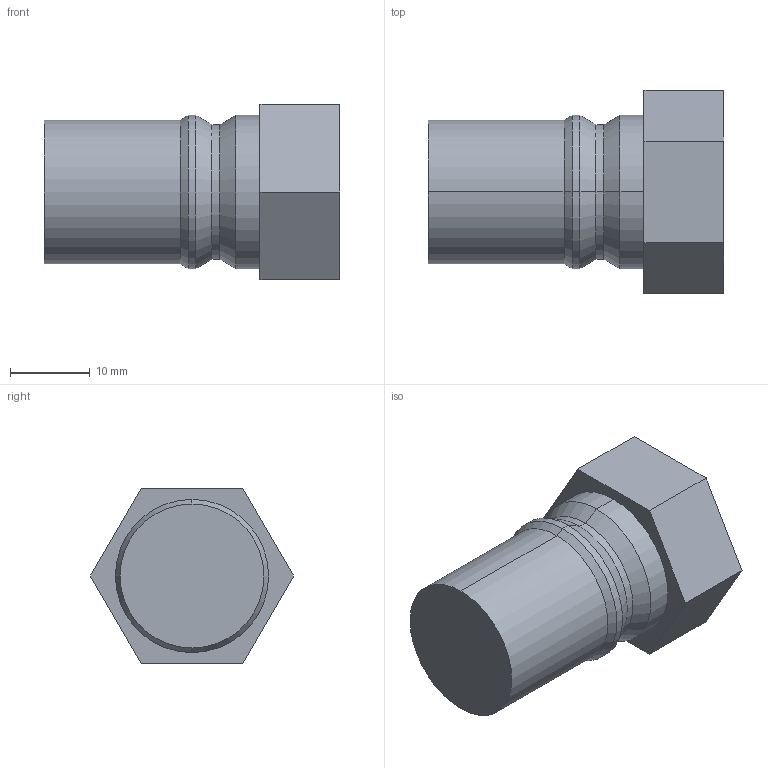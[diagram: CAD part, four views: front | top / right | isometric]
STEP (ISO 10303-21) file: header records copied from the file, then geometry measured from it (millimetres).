
FILE_DESCRIPTION (( 'STEP AP214' ), '1' );
FILE_NAME ('BR601.09 DR 17.STEP', '2020-12-02T13:25:02', ( '' ), ( '' ), 'SwSTEP 2.0', 'SolidWorks 2018', '' );
FILE_SCHEMA (( 'AUTOMOTIVE_DESIGN' ));
Length unit declared in the file: millimetre
Products named in the file (1): BR601.09 DR 17
Bounding box: 37 x 25.4 x 22 mm (x, y, z)
Volume: 11183.5 mm3; surface area: 3150.3 mm2
Topology: 1 solids, 1 shells, 23 faces, 48 edges, 28 vertices
Faces by surface type: plane 9, cylinder 8, cone 6
Entity records: 636 total; most frequent: DIRECTION 112, CARTESIAN_POINT 100, ORIENTED_EDGE 96, EDGE_CURVE 48, AXIS2_PLACEMENT_3D 40, VECTOR 32, LINE 32, VERTEX_POINT 28
